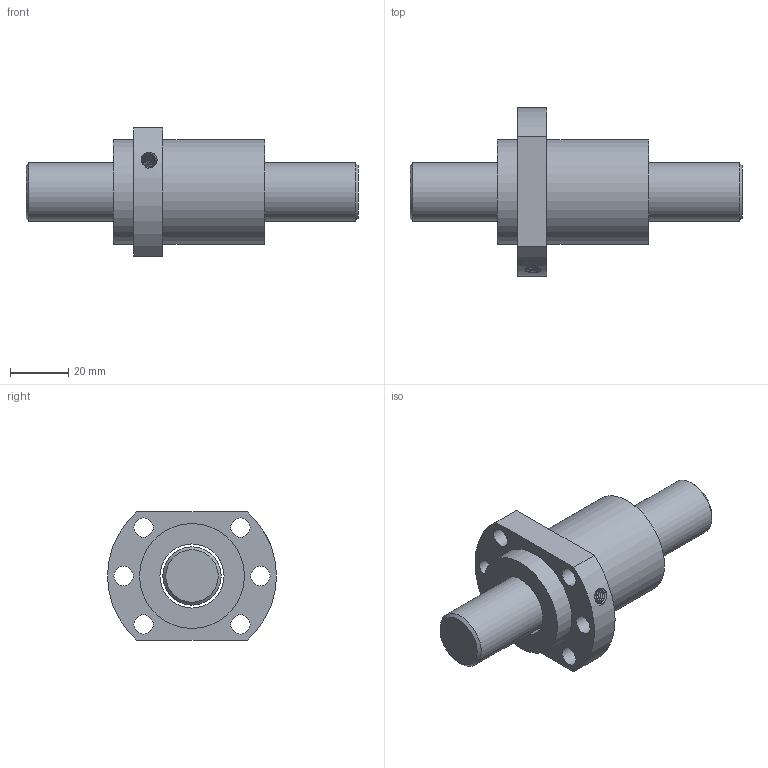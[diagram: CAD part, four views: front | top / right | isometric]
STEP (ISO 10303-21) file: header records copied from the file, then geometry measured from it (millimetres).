
FILE_DESCRIPTION(/* description */ ('Unknown','CAx-IF Rec.Pracs.---Representation and Presentation of Product Manufacturing Information (PMI)---4.0---2014-10-13','CAx-IF Rec.Pracs.---3D Tessellated Geometry---0.4---2014-09-14','2;1'),/* implementation_level */ '2;1');
FILE_NAME(/* name */ 'SFA2020-1.8',/* time_stamp */ '2020-12-08T08:24:06+08:00',/* author */ ('Unknown'),/* organization */ ('Unknown'),/* preprocessor_version */ 'ST-DEVELOPER v16.7',/* originating_system */ 'Solid Edge',/* authorisation */ 'Unknown');
FILE_SCHEMA (('AP242_MANAGED_MODEL_BASED_3D_ENGINEERING_MIM_LF { 1 0 10303 442 1 1 4 }'));
Length unit declared in the file: millimetre
Products named in the file (1): SFA2020-1.8
Bounding box: 114 x 58 x 44 mm (x, y, z)
Volume: 79177 mm3; surface area: 22749.9 mm2
Topology: 2 solids, 2 shells, 30 faces, 69 edges, 45 vertices
Faces by surface type: cylinder 16, plane 9, cone 3, bspline 2
Full cylindrical faces by diameter (mm): 4 x1, 4.917 x1, 6.6 x6, 20 x1, 22 x1, 36 x2
Entity records: 2932 total; most frequent: CARTESIAN_POINT 2230, DIRECTION 134, ORIENTED_EDGE 100, AXIS2_PLACEMENT_3D 64, EDGE_LOOP 63, FACE_BOUND 63, EDGE_CURVE 50, VERTEX_POINT 41
